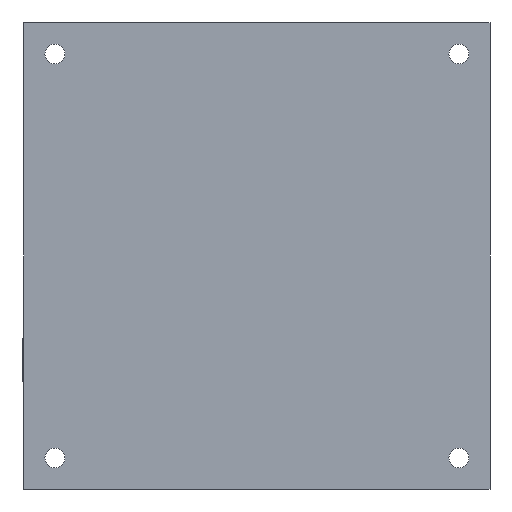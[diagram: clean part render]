
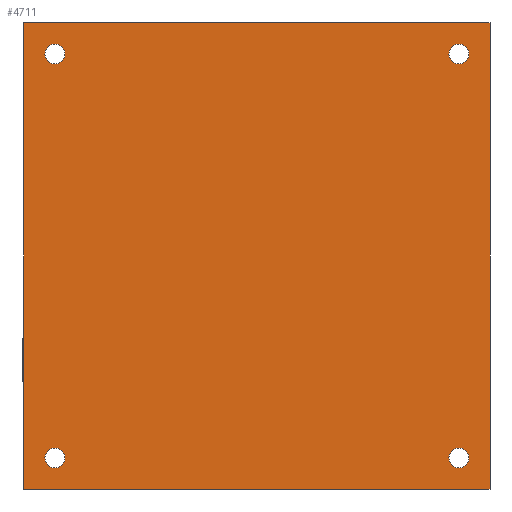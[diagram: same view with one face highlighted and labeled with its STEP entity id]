
A CAD part, front view. The second image highlights one B-rep face of the part: STEP entity #4711.
In plain terms, the highlighted planar face has unit normal (0, -1, 0).
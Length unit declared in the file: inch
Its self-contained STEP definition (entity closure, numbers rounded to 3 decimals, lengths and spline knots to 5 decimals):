
#55 = EDGE_CURVE ( 'NONE', #4022, #8260, #5794, .T. ) ;
#78 = DIRECTION ( 'NONE',  ( 0., 0., 1. ) ) ;
#85 = EDGE_CURVE ( 'NONE', #8260, #4860, #3605, .T. ) ;
#143 = FACE_BOUND ( 'NONE', #9194, .T. ) ;
#199 = ORIENTED_EDGE ( 'NONE', *, *, #4697, .T. ) ;
#321 = VECTOR ( 'NONE', #2209, 39.37008 ) ;
#361 = ORIENTED_EDGE ( 'NONE', *, *, #1003, .T. ) ;
#463 = VERTEX_POINT ( 'NONE', #7965 ) ;
#641 = AXIS2_PLACEMENT_3D ( 'NONE', #7490, #1109, #3253 ) ;
#682 = DIRECTION ( 'NONE',  ( 0., 1., 0. ) ) ;
#722 = AXIS2_PLACEMENT_3D ( 'NONE', #1094, #5381, #8221 ) ;
#900 = CARTESIAN_POINT ( 'NONE',  ( -1.27953, 0., -1.34252 ) ) ;
#971 = VERTEX_POINT ( 'NONE', #6416 ) ;
#1003 = EDGE_CURVE ( 'NONE', #4561, #971, #8837, .T. ) ;
#1094 = CARTESIAN_POINT ( 'NONE',  ( -1.27953, 0., -1.27953 ) ) ;
#1109 = DIRECTION ( 'NONE',  ( 0., 1., 0. ) ) ;
#1290 = DIRECTION ( 'NONE',  ( 0., 0., 1. ) ) ;
#1412 = CIRCLE ( 'NONE', #3507, 0.06299 ) ;
#1495 = DIRECTION ( 'NONE',  ( -1., 0., 0. ) ) ;
#1575 = VERTEX_POINT ( 'NONE', #6105 ) ;
#1591 = LINE ( 'NONE', #5699, #7366 ) ;
#1603 = CARTESIAN_POINT ( 'NONE',  ( 1.27953, 0., -1.27953 ) ) ;
#1700 = ORIENTED_EDGE ( 'NONE', *, *, #6224, .F. ) ;
#1789 = VERTEX_POINT ( 'NONE', #3028 ) ;
#1852 = ORIENTED_EDGE ( 'NONE', *, *, #5105, .T. ) ;
#1861 = ORIENTED_EDGE ( 'NONE', *, *, #4590, .T. ) ;
#2075 = AXIS2_PLACEMENT_3D ( 'NONE', #1603, #2867, #4442 ) ;
#2117 = EDGE_CURVE ( 'NONE', #1575, #1789, #1412, .T. ) ;
#2175 = FACE_BOUND ( 'NONE', #3348, .T. ) ;
#2209 = DIRECTION ( 'NONE',  ( 0., 0., -1. ) ) ;
#2228 = DIRECTION ( 'NONE',  ( 0., 1., 0. ) ) ;
#2312 = DIRECTION ( 'NONE',  ( 0., 0., -1. ) ) ;
#2425 = EDGE_LOOP ( 'NONE', ( #6312, #1700, #3223, #8439 ) ) ;
#2699 = DIRECTION ( 'NONE',  ( 0., 0., 1. ) ) ;
#2701 = CARTESIAN_POINT ( 'NONE',  ( -1.47638, 0., 1.47638 ) ) ;
#2806 = EDGE_LOOP ( 'NONE', ( #7007, #7774 ) ) ;
#2867 = DIRECTION ( 'NONE',  ( 0., 1., 0. ) ) ;
#3002 = CIRCLE ( 'NONE', #7759, 0.06299 ) ;
#3012 = VERTEX_POINT ( 'NONE', #8125 ) ;
#3028 = CARTESIAN_POINT ( 'NONE',  ( -1.27953, 0., 1.21654 ) ) ;
#3081 = VERTEX_POINT ( 'NONE', #900 ) ;
#3093 = CARTESIAN_POINT ( 'NONE',  ( 1.47638, 0., -1.47638 ) ) ;
#3223 = ORIENTED_EDGE ( 'NONE', *, *, #85, .F. ) ;
#3253 = DIRECTION ( 'NONE',  ( 0., 0., 1. ) ) ;
#3263 = AXIS2_PLACEMENT_3D ( 'NONE', #7845, #3614, #2312 ) ;
#3348 = EDGE_LOOP ( 'NONE', ( #1852, #361 ) ) ;
#3413 = CIRCLE ( 'NONE', #8617, 0.06299 ) ;
#3459 = VECTOR ( 'NONE', #1290, 39.37008 ) ;
#3507 = AXIS2_PLACEMENT_3D ( 'NONE', #8437, #6379, #4796 ) ;
#3571 = PLANE ( 'NONE',  #3263 ) ;
#3605 = LINE ( 'NONE', #6441, #321 ) ;
#3614 = DIRECTION ( 'NONE',  ( 0., -1., 0. ) ) ;
#3633 = DIRECTION ( 'NONE',  ( 0., 0., 1. ) ) ;
#3886 = EDGE_CURVE ( 'NONE', #1789, #1575, #4222, .T. ) ;
#3950 = VERTEX_POINT ( 'NONE', #6748 ) ;
#4022 = VERTEX_POINT ( 'NONE', #2701 ) ;
#4222 = CIRCLE ( 'NONE', #641, 0.06299 ) ;
#4295 = CIRCLE ( 'NONE', #2075, 0.06299 ) ;
#4305 = DIRECTION ( 'NONE',  ( 1., 0., 0. ) ) ;
#4313 = FACE_BOUND ( 'NONE', #4854, .T. ) ;
#4368 = EDGE_CURVE ( 'NONE', #3081, #6348, #4751, .T. ) ;
#4375 = CARTESIAN_POINT ( 'NONE',  ( -1.27953, 0., -1.27953 ) ) ;
#4442 = DIRECTION ( 'NONE',  ( 0., 0., 1. ) ) ;
#4492 = VECTOR ( 'NONE', #4305, 39.37008 ) ;
#4561 = VERTEX_POINT ( 'NONE', #7751 ) ;
#4590 = EDGE_CURVE ( 'NONE', #3950, #3012, #4295, .T. ) ;
#4697 = EDGE_CURVE ( 'NONE', #3012, #3950, #3413, .T. ) ;
#4711 = ADVANCED_FACE ( 'NONE', ( #143, #2175, #5009, #4313, #7939 ), #3571, .T. ) ;
#4751 = CIRCLE ( 'NONE', #722, 0.06299 ) ;
#4796 = DIRECTION ( 'NONE',  ( 0., 0., 1. ) ) ;
#4854 = EDGE_LOOP ( 'NONE', ( #8724, #8923 ) ) ;
#4860 = VERTEX_POINT ( 'NONE', #3093 ) ;
#5009 = FACE_BOUND ( 'NONE', #2806, .T. ) ;
#5105 = EDGE_CURVE ( 'NONE', #971, #4561, #8705, .T. ) ;
#5115 = CARTESIAN_POINT ( 'NONE',  ( 1.27953, 0., 1.27953 ) ) ;
#5123 = AXIS2_PLACEMENT_3D ( 'NONE', #5115, #2228, #3633 ) ;
#5381 = DIRECTION ( 'NONE',  ( 0., 1., 0. ) ) ;
#5665 = CARTESIAN_POINT ( 'NONE',  ( 1.27953, 0., -1.27953 ) ) ;
#5699 = CARTESIAN_POINT ( 'NONE',  ( -1.47638, 0., -1.47638 ) ) ;
#5794 = LINE ( 'NONE', #7793, #4492 ) ;
#6105 = CARTESIAN_POINT ( 'NONE',  ( -1.27953, 0., 1.34252 ) ) ;
#6224 = EDGE_CURVE ( 'NONE', #4860, #463, #1591, .T. ) ;
#6229 = LINE ( 'NONE', #6976, #3459 ) ;
#6312 = ORIENTED_EDGE ( 'NONE', *, *, #6899, .F. ) ;
#6348 = VERTEX_POINT ( 'NONE', #8050 ) ;
#6379 = DIRECTION ( 'NONE',  ( 0., 1., 0. ) ) ;
#6416 = CARTESIAN_POINT ( 'NONE',  ( 1.27953, 0., 1.34252 ) ) ;
#6441 = CARTESIAN_POINT ( 'NONE',  ( 1.47638, 0., 1.47638 ) ) ;
#6511 = DIRECTION ( 'NONE',  ( 0., 1., 0. ) ) ;
#6537 = DIRECTION ( 'NONE',  ( 0., 0., 1. ) ) ;
#6748 = CARTESIAN_POINT ( 'NONE',  ( 1.27953, 0., -1.34252 ) ) ;
#6899 = EDGE_CURVE ( 'NONE', #463, #4022, #6229, .T. ) ;
#6976 = CARTESIAN_POINT ( 'NONE',  ( -1.47638, 0., 1.47638 ) ) ;
#6980 = CARTESIAN_POINT ( 'NONE',  ( 1.47638, 0., 1.47638 ) ) ;
#7007 = ORIENTED_EDGE ( 'NONE', *, *, #2117, .T. ) ;
#7366 = VECTOR ( 'NONE', #1495, 39.37008 ) ;
#7490 = CARTESIAN_POINT ( 'NONE',  ( -1.27953, 0., 1.27953 ) ) ;
#7751 = CARTESIAN_POINT ( 'NONE',  ( 1.27953, 0., 1.21654 ) ) ;
#7759 = AXIS2_PLACEMENT_3D ( 'NONE', #4375, #6511, #78 ) ;
#7774 = ORIENTED_EDGE ( 'NONE', *, *, #3886, .T. ) ;
#7793 = CARTESIAN_POINT ( 'NONE',  ( -1.47638, 0., 1.47638 ) ) ;
#7799 = DIRECTION ( 'NONE',  ( 0., 1., 0. ) ) ;
#7845 = CARTESIAN_POINT ( 'NONE',  ( 0., 0., 0. ) ) ;
#7926 = EDGE_CURVE ( 'NONE', #6348, #3081, #3002, .T. ) ;
#7939 = FACE_OUTER_BOUND ( 'NONE', #2425, .T. ) ;
#7965 = CARTESIAN_POINT ( 'NONE',  ( -1.47638, 0., -1.47638 ) ) ;
#8050 = CARTESIAN_POINT ( 'NONE',  ( -1.27953, 0., -1.21654 ) ) ;
#8125 = CARTESIAN_POINT ( 'NONE',  ( 1.27953, 0., -1.21654 ) ) ;
#8221 = DIRECTION ( 'NONE',  ( 0., 0., 1. ) ) ;
#8251 = AXIS2_PLACEMENT_3D ( 'NONE', #9119, #682, #2699 ) ;
#8260 = VERTEX_POINT ( 'NONE', #6980 ) ;
#8437 = CARTESIAN_POINT ( 'NONE',  ( -1.27953, 0., 1.27953 ) ) ;
#8439 = ORIENTED_EDGE ( 'NONE', *, *, #55, .F. ) ;
#8617 = AXIS2_PLACEMENT_3D ( 'NONE', #5665, #7799, #6537 ) ;
#8705 = CIRCLE ( 'NONE', #8251, 0.06299 ) ;
#8724 = ORIENTED_EDGE ( 'NONE', *, *, #7926, .T. ) ;
#8837 = CIRCLE ( 'NONE', #5123, 0.06299 ) ;
#8923 = ORIENTED_EDGE ( 'NONE', *, *, #4368, .T. ) ;
#9119 = CARTESIAN_POINT ( 'NONE',  ( 1.27953, 0., 1.27953 ) ) ;
#9194 = EDGE_LOOP ( 'NONE', ( #199, #1861 ) ) ;
